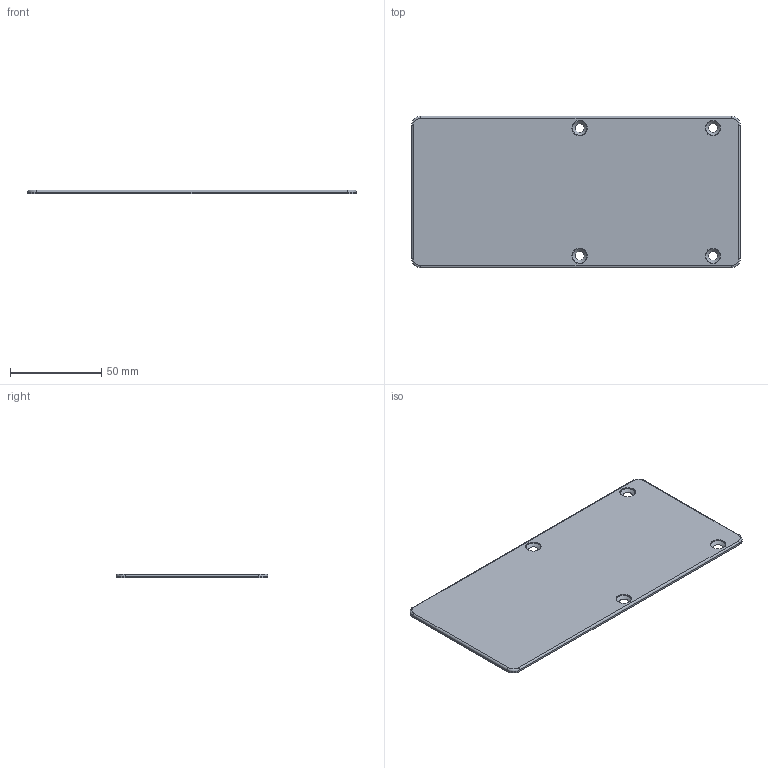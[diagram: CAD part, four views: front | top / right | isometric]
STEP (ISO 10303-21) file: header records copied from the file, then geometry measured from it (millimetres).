
FILE_DESCRIPTION(('HOOPS Exchange Step'),'2;1');
FILE_NAME('/Users/tim/Library/Containers/com.shapr3d.shapr/Data/tmp/export/temp_export','2024-03-22T11:56:28-04:00',('tim'),('Shapr3D Limited'),'HOOPS Exchange 2023.2','Shapr3D','Authorized');
FILE_SCHEMA( ('AUTOMOTIVE_DESIGN { 1 0 10303 214 1 1 1 1 }') );
Length unit declared in the file: millimetre
Products named in the file (1): V2 Final Backboard
Bounding box: 180 x 83 x 2 mm (x, y, z)
Volume: 29410.2 mm3; surface area: 30596.5 mm2
Topology: 1 solids, 1 shells, 30 faces, 64 edges, 40 vertices
Faces by surface type: cylinder 12, plane 10, cone 4, torus 4
Full cylindrical faces by diameter (mm): 8.5 x4
Entity records: 860 total; most frequent: DIRECTION 162, CARTESIAN_POINT 135, ORIENTED_EDGE 128, AXIS2_PLACEMENT_3D 67, EDGE_CURVE 64, EDGE_LOOP 42, FACE_BOUND 42, VERTEX_POINT 40
